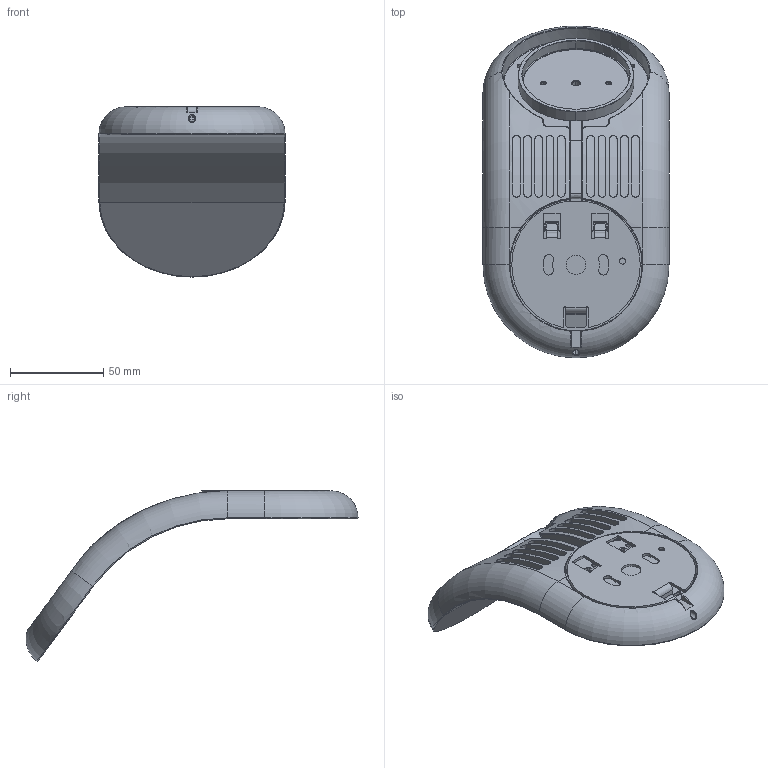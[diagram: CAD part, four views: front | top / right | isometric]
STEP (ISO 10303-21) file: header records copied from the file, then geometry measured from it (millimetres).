
FILE_DESCRIPTION (( 'STEP AP203' ), '1' );
FILE_NAME ('APLIKPLUS-PER 3D.STEP', '2024-05-27T15:25:56', ( '' ), ( '' ), 'SwSTEP 2.0', 'SolidWorks 2024', '' );
FILE_SCHEMA (( 'CONFIG_CONTROL_DESIGN' ));
Length unit declared in the file: millimetre
Products named in the file (5): APLIKPLUS-PER 3D; WSCM2B0002-0700-02; WSCM2C0150-0400-00_DefaultSviluppo; WSCM2A0103-0700-01; WSASS-000000046-00
Assembly tree (4 placements, depth 3):
  APLIKPLUS-PER 3D
    WSCM2B0002-0700-02
    WSASS-000000046-00
      WSCM2A0103-0700-01
    WSCM2C0150-0400-00_DefaultSviluppo
Bounding box: 100 x 178.36 x 91.46 mm (x, y, z)
Volume: 159654.9 mm3; surface area: 74997.6 mm2
Topology: 3 solids, 3 shells, 454 faces, 1100 edges, 653 vertices
Faces by surface type: cylinder 192, plane 119, torus 52, cone 52, bspline 32, sphere 7
Entity records: 18243 total; most frequent: CARTESIAN_POINT 7236, DIRECTION 2285, ORIENTED_EDGE 2160, EDGE_CURVE 1080, AXIS2_PLACEMENT_3D 919, VERTEX_POINT 653, EDGE_LOOP 495, CIRCLE 489
